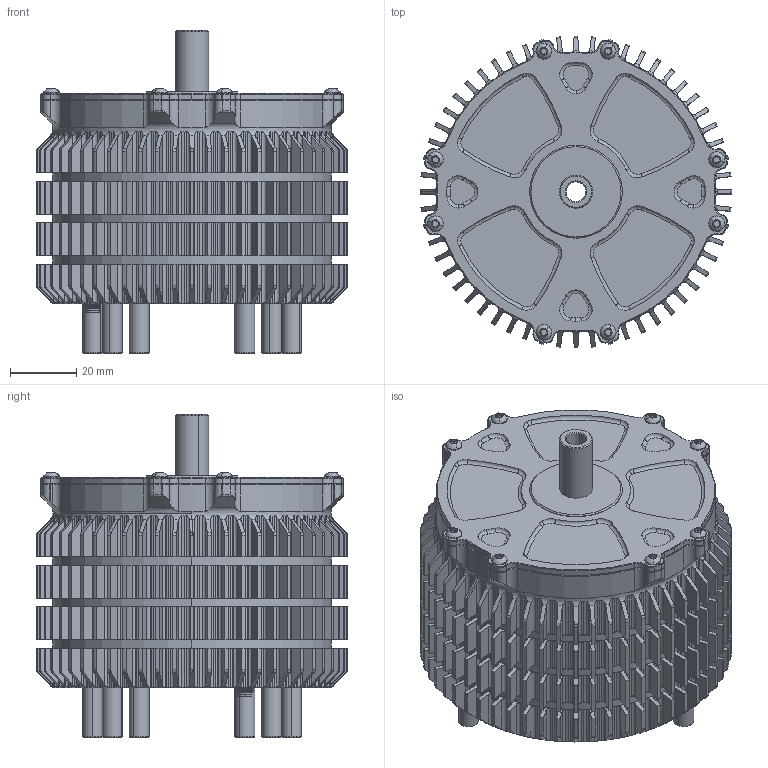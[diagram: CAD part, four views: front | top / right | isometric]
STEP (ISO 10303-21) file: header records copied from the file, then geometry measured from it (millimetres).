
FILE_DESCRIPTION (( 'STEP AP214' ), '1' );
FILE_NAME ('85940_20230703_MW.STEP', '2023-07-03T11:41:33', ( '' ), ( '' ), 'SwSTEP 2.0', 'SolidWorks 2022', '' );
FILE_SCHEMA (( 'AUTOMOTIVE_DESIGN' ));
Length unit declared in the file: millimetre
Products named in the file (1): 85940_20230703_MW
Bounding box: 94 x 94 x 97.5 mm (x, y, z)
Volume: 351573.3 mm3; surface area: 61379.4 mm2
Topology: 1 solids, 19 shells, 3185 faces, 8737 edges, 5643 vertices
Faces by surface type: cylinder 1324, plane 1067, cone 491, torus 259, bspline 28, sphere 16
Entity records: 148662 total; most frequent: CARTESIAN_POINT 33071, ORIENTED_EDGE 17450, DIRECTION 16791, EDGE_CURVE 8725, AXIS2_PLACEMENT_3D 6413, VERTEX_POINT 5643, VECTOR 3965, LINE 3965
